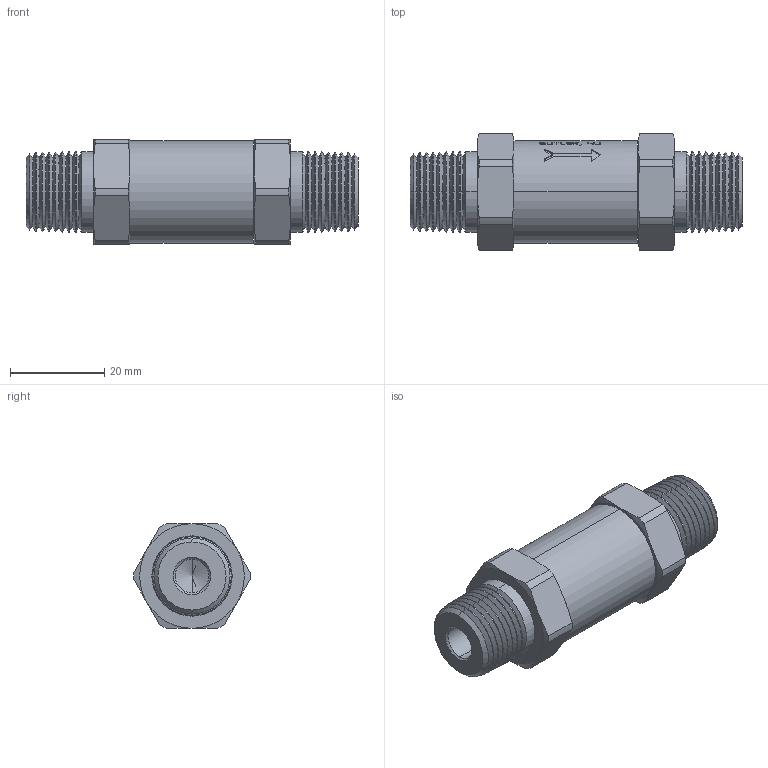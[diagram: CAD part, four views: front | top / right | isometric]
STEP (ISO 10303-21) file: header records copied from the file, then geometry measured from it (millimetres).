
FILE_DESCRIPTION (( 'STEP AP203' ), '1' );
FILE_NAME ('PCV-6P.STEP', '2019-07-22T15:15:17', ( '' ), ( '' ), 'SwSTEP 2.0', 'SolidWorks 2011', '' );
FILE_SCHEMA (( 'CONFIG_CONTROL_DESIGN' ));
Length unit declared in the file: inch
Products named in the file (2): PCV-6P; Part2^PCV-6P_CM
Assembly tree (1 placements, depth 2):
  PCV-6P
    Part2^PCV-6P_CM
Bounding box: 70.56 x 24.76 x 22.23 mm (x, y, z)
Volume: 21129.2 mm3; surface area: 7075.8 mm2
Topology: 1 solids, 1 shells, 426 faces, 1028 edges, 630 vertices
Faces by surface type: cone 152, plane 149, bspline 70, cylinder 55
Entity records: 17053 total; most frequent: CARTESIAN_POINT 7489, ORIENTED_EDGE 2048, DIRECTION 1784, EDGE_CURVE 1024, AXIS2_PLACEMENT_3D 686, VERTEX_POINT 630, EDGE_LOOP 456, FACE_OUTER_BOUND 426
